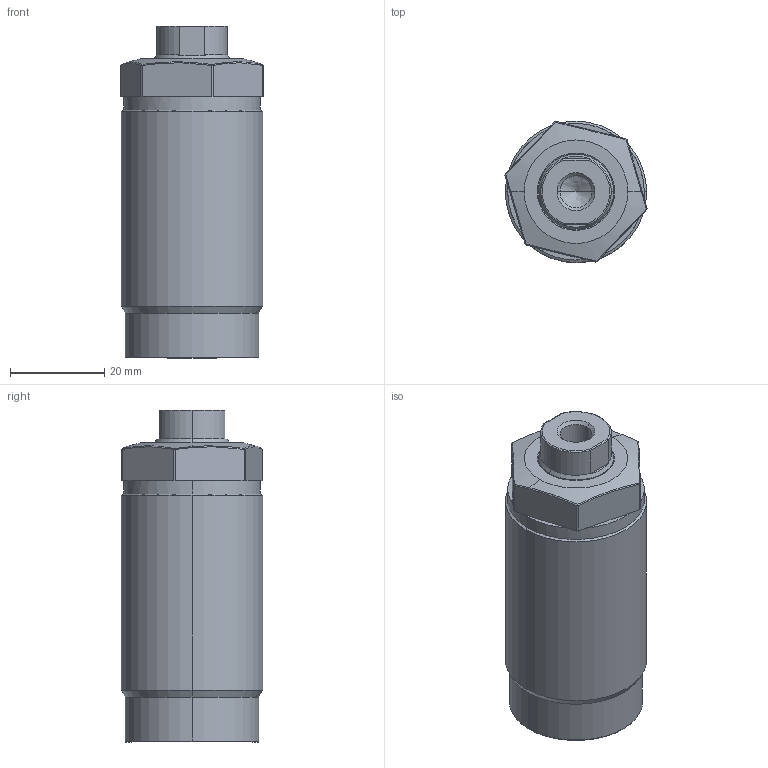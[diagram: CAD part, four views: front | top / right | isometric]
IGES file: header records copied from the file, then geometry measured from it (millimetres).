
Start section: SolidWorks IGES file using analytic representation for surfaces
Global section: file name: F:\THREADED BODY PUSHER-STD\TO3C-M303-L.IGS; native system: SolidWorks 2019; preprocessor: SolidWorks 2019; author: ADMIN; date: 200710.084654; units: millimetre
Bounding box: 30.17 x 30 x 70.5 mm (x, y, z)
Volume: 42864.7 mm3; surface area: 12681.6 mm2
Topology: 2 solids, 2 shells, 88 faces, 200 edges, 119 vertices
Faces by surface type: revolution 44, plane 38, bspline 6
